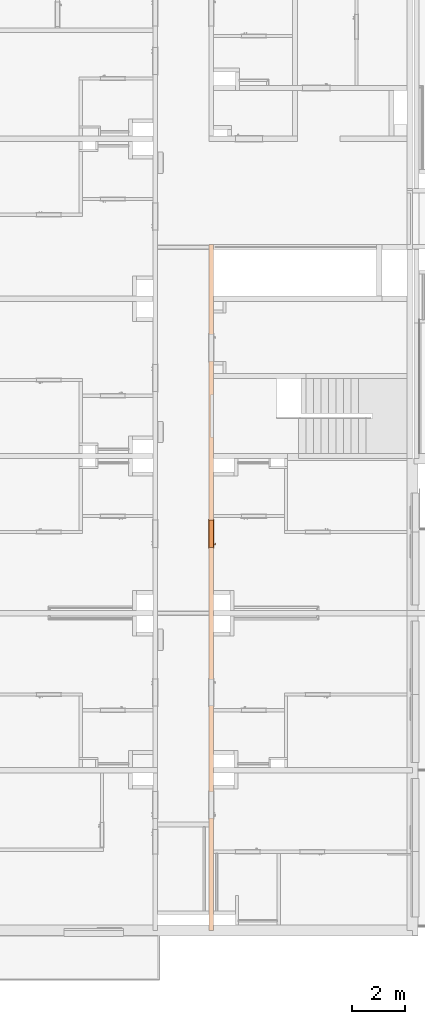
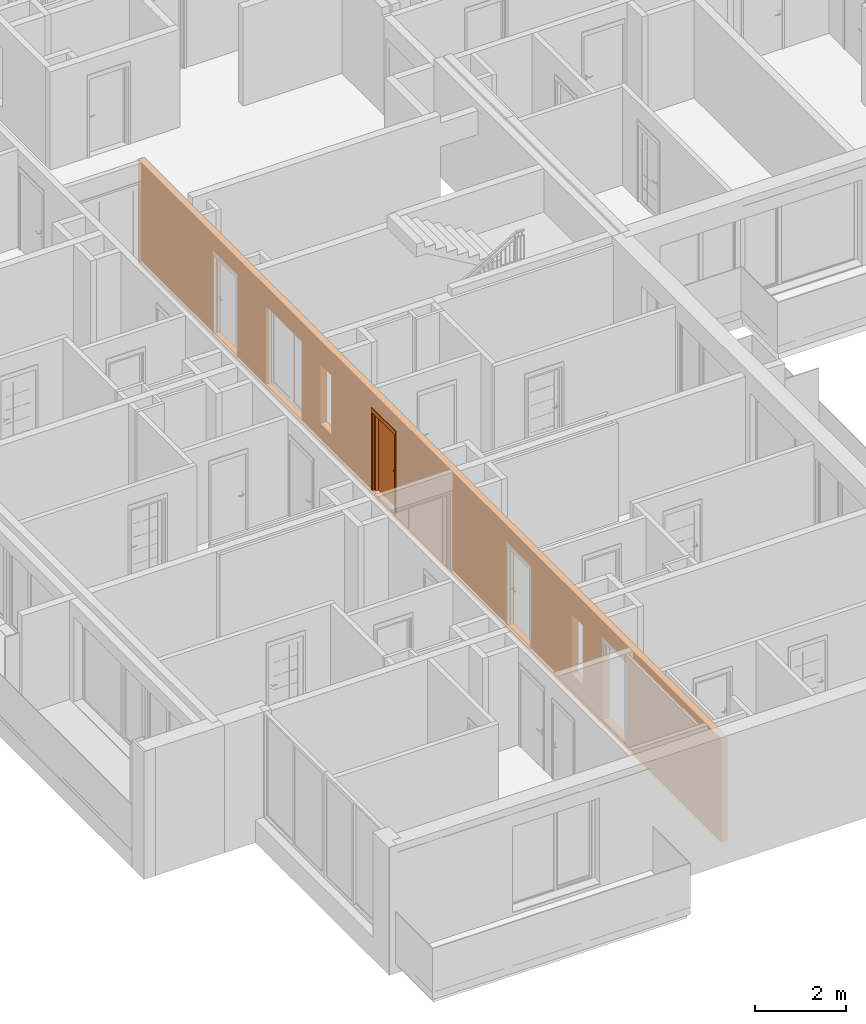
# One storey, part 14 of 67: 1 proxy, 7 openings, plus 1 element that does not belong to this part.
"""IFC2X3 building model written with IfcOpenShell, lengths in millimetres."""

from ifc_helpers import new_model, entity, si_unit, converted_unit, derived_unit, money_unit, direction, frame, origin_with_axes, origin_2d_with_axis, place, context, subcontext, project, spatial, rectangle, extrude, open_shell, faceted_brep, surface_model, source, transform, mapped, material, type_object, element, fill, save


model = new_model("IFC2X3")

# Units and contexts
model_context = context("Model", 3, precision=0.01, world=origin_with_axes(), true_north=direction((0.34421633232, 0.938890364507)))
body_context = subcontext(model_context, "Body", "Model", "MODEL_VIEW")
ifc_project = project(units=[si_unit("LENGTHUNIT", "METRE", prefix="MILLI"), si_unit("AREAUNIT", "SQUARE_METRE"), si_unit("VOLUMEUNIT", "CUBIC_METRE"), converted_unit("PLANEANGLEUNIT", "DEGREE", entity("IfcPlaneAngleMeasure", 0.0174532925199), si_unit("PLANEANGLEUNIT", "RADIAN"), dimensions=[0, 0, 0, 0, 0, 0, 0]), si_unit("SOLIDANGLEUNIT", "STERADIAN"), money_unit("USD"), converted_unit("TIMEUNIT", "Year", entity("IfcTimeMeasure", 31556926.0), si_unit("TIMEUNIT", "SECOND"), dimensions=[0, 0, 1, 0, 0, 0, 0]), si_unit("MASSUNIT", "GRAM", prefix="KILO"), si_unit("THERMODYNAMICTEMPERATUREUNIT", "DEGREE_CELSIUS"), si_unit("LUMINOUSINTENSITYUNIT", "LUMEN"), si_unit("ENERGYUNIT", "JOULE", prefix="MEGA"), derived_unit("THERMALCONDUCTANCEUNIT", [(si_unit("POWERUNIT", "WATT"), 1), (si_unit("LENGTHUNIT", "METRE"), -1), (si_unit("THERMODYNAMICTEMPERATUREUNIT", "KELVIN"), -1)]), derived_unit("SPECIFICHEATCAPACITYUNIT", [(si_unit("ENERGYUNIT", "JOULE"), 1), (si_unit("MASSUNIT", "GRAM", prefix="KILO"), -1), (si_unit("THERMODYNAMICTEMPERATUREUNIT", "KELVIN"), -1)]), derived_unit("MASSDENSITYUNIT", [(si_unit("MASSUNIT", "GRAM", prefix="KILO"), 1), (si_unit("VOLUMEUNIT", "CUBIC_METRE"), -1)])], contexts=[model_context])

# Site, building, storey
site_placement = place(None, origin_with_axes())
site = spatial("IfcSite", under=ifc_project, at=site_placement, Name="USTRONIE MORSKIE", CompositionType="ELEMENT")
building_placement = place(site_placement, origin_with_axes())
building = spatial("IfcBuilding", under=site, at=building_placement, Name="Budynek", CompositionType="ELEMENT")
storey_placement = place(building_placement, frame((0.0, 0.0, 4000.0), z_axis=(0.0, 0.0, 1.0), x_axis=(1.0, 0.0, 0.0)))
storey = spatial("IfcBuildingStorey", under=building, at=storey_placement, Name="PIĘTRO 1", CompositionType="ELEMENT", Elevation=4000.0)

# Proxies, openings
ifc_material = material(Name="Beton konstrukcyjny B25")
building_element_proxy_type_1 = type_object("IfcBuildingElementProxyType", Name="Beton konstrukcyjny B25 160", PredefinedType="NOTDEFINED")
proxy_1_placement = place(storey_placement, frame((359617.920919, 734831.198985, -160.0), z_axis=(0.0, 0.0, 1.0), x_axis=(0.0, -1.0, 0.0)))
proxy_1 = element("IfcBuildingElementProxy", 1, at=proxy_1_placement, inside=storey, type_object=building_element_proxy_type_1, material=ifc_material, Name="SW-01", context=body_context, shape_type="Brep", body=[
    faceted_brep([(0.0, 80.0, 0.0), (25729.9999491, 80.0, 0.0), (25729.9999491, -80.0, 0.0), (0.0, -80.0, 0.0), (0.0, 80.0, 2800.0), (25729.9999491, 80.0, 2800.0), (25729.9999491, -80.0, 2800.0), (0.0, -80.0, 2800.0)], [[[0, 1, 2, 3]], [[4, 5, 1, 0]], [[6, 2, 1, 5]], [[3, 2, 6, 7]], [[7, 4, 0, 3]], [[7, 6, 5, 4]]]),
])
opening_1_placement = place(proxy_1_placement, frame((16809.9552113, 0.0, 160.0), z_axis=(0.0, 0.0, 1.0), x_axis=(1.0, 0.0, 0.0)))
element("IfcOpeningElement", 2, at=opening_1_placement, cuts=proxy_1, Name="Dw.1", context=body_context, shape_type="SweptSolid", body=[
    extrude(rectangle(XDim=1020.0, YDim=2120.0, at=origin_2d_with_axis()), frame((0.0, -160.0, 1060.0), z_axis=(0.0, 1.0, 0.0), x_axis=(1.0, 0.0, 0.0)), (0.0, 0.0, 1.0), 480.0),
    extrude(rectangle(XDim=1094.0, YDim=2227.0, at=origin_2d_with_axis()), frame((0.0, -80.0, 1113.5), z_axis=(0.0, 1.0, 0.0), x_axis=(1.0, 0.0, 0.0)), (0.0, 0.0, -1.0), 160.0),
    extrude(rectangle(XDim=1094.0, YDim=2227.0, at=origin_2d_with_axis()), frame((0.0, 80.0, 1113.5), z_axis=(0.0, -1.0, 0.0), x_axis=(1.0, 0.0, 0.0)), (0.0, 0.0, -1.0), 160.0),
])
opening_2_placement = place(proxy_1_placement, frame((21029.9999495, 0.0, 160.0), z_axis=(0.0, 0.0, 1.0), x_axis=(1.0, 0.0, 0.0)))
element("IfcOpeningElement", 3, at=opening_2_placement, cuts=proxy_1, Name="Dw.1", context=body_context, shape_type="SweptSolid", body=[
    extrude(rectangle(XDim=1020.0, YDim=2120.0, at=origin_2d_with_axis()), frame((0.0, -160.0, 1060.0), z_axis=(0.0, -1.0, 0.0), x_axis=(-1.0, 0.0, 0.0)), (0.0, 0.0, -1.0), 480.0),
    extrude(rectangle(XDim=1094.0, YDim=2227.0, at=origin_2d_with_axis()), frame((0.0, -80.0, 1113.5), z_axis=(0.0, -1.0, 0.0), x_axis=(-1.0, 0.0, 0.0)), (0.0, 0.0, 1.0), 160.0),
    extrude(rectangle(XDim=1094.0, YDim=2227.0, at=origin_2d_with_axis()), frame((0.0, 80.0, 1113.5), z_axis=(0.0, 1.0, 0.0), x_axis=(-1.0, 0.0, 0.0)), (0.0, 0.0, 1.0), 160.0),
])
opening_3_placement = place(proxy_1_placement, frame((3869.9999533, 0.0, 160.0), z_axis=(0.0, 0.0, 1.0), x_axis=(1.0, 0.0, 0.0)))
element("IfcOpeningElement", 4, at=opening_3_placement, cuts=proxy_1, Name="Dw.2", context=body_context, shape_type="SweptSolid", body=[
    extrude(rectangle(XDim=1020.0, YDim=2120.0, at=origin_2d_with_axis()), frame((0.0, -160.0, 1060.0), z_axis=(0.0, 1.0, 0.0), x_axis=(1.0, 0.0, 0.0)), (0.0, 0.0, 1.0), 480.0),
    extrude(rectangle(XDim=1094.0, YDim=2227.0, at=origin_2d_with_axis()), frame((0.0, -80.0, 1113.5), z_axis=(0.0, 1.0, 0.0), x_axis=(1.0, 0.0, 0.0)), (0.0, 0.0, -1.0), 160.0),
    extrude(rectangle(XDim=1094.0, YDim=2227.0, at=origin_2d_with_axis()), frame((0.0, 80.0, 1113.5), z_axis=(0.0, -1.0, 0.0), x_axis=(1.0, 0.0, 0.0)), (0.0, 0.0, -1.0), 160.0),
])
opening_4_placement = place(proxy_1_placement, frame((6429.99994909, 0.0, 160.0), z_axis=(0.0, 0.0, 1.0), x_axis=(1.0, 0.0, 0.0)))
element("IfcOpeningElement", 5, at=opening_4_placement, cuts=proxy_1, Name="D2", context=body_context, shape_type="SweptSolid", body=[
    extrude(rectangle(XDim=1620.0, YDim=2120.0, at=origin_2d_with_axis()), frame((0.0, -160.0, 1060.0), z_axis=(0.0, -1.0, 0.0), x_axis=(-1.0, 0.0, 0.0)), (0.0, 0.0, -1.0), 480.0),
])
opening_5_placement = place(proxy_1_placement, frame((10850.0446869, 0.0, 160.0), z_axis=(0.0, 0.0, 1.0), x_axis=(1.0, 0.0, 0.0)))
opening_5 = element("IfcOpeningElement", 6, at=opening_5_placement, cuts=proxy_1, Name="Dw.1", context=body_context, shape_type="SweptSolid", body=[
    extrude(rectangle(XDim=1020.0, YDim=2120.0, at=origin_2d_with_axis()), frame((0.0, -160.0, 1060.0), z_axis=(0.0, -1.0, 0.0), x_axis=(-1.0, 0.0, 0.0)), (0.0, 0.0, -1.0), 480.0),
    extrude(rectangle(XDim=1094.0, YDim=2227.0, at=origin_2d_with_axis()), frame((0.0, -80.0, 1113.5), z_axis=(0.0, -1.0, 0.0), x_axis=(-1.0, 0.0, 0.0)), (0.0, 0.0, 1.0), 160.0),
    extrude(rectangle(XDim=1094.0, YDim=2227.0, at=origin_2d_with_axis()), frame((0.0, 80.0, 1113.5), z_axis=(0.0, 1.0, 0.0), x_axis=(-1.0, 0.0, 0.0)), (0.0, 0.0, 1.0), 160.0),
])
opening_6_placement = place(proxy_1_placement, frame((8280.00085724, 0.0, 560.0), z_axis=(0.0, 0.0, 1.0), x_axis=(1.0, 0.0, 0.0)))
element("IfcOpeningElement", 7, at=opening_6_placement, cuts=proxy_1, Name="R.01", context=body_context, shape_type="SweptSolid", body=[
    extrude(rectangle(XDim=500.001816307, YDim=1600.0, at=origin_2d_with_axis()), frame((0.0, -80.0, 800.0), z_axis=(0.0, 1.0, 0.0), x_axis=(1.0, 0.0, 0.0)), (0.0, 0.0, -1.0), 160.0),
    extrude(rectangle(XDim=500.001816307, YDim=1600.0, at=origin_2d_with_axis()), frame((0.0, -80.0, 800.0), z_axis=(0.0, -1.0, 0.0), x_axis=(1.0, 0.0, 0.0)), (0.0, 0.0, -1.0), 160.0),
])
opening_7_placement = place(proxy_1_placement, frame((19380.0004126, 0.0, 560.0), z_axis=(0.0, 0.0, 1.0), x_axis=(1.0, 0.0, 0.0)))
element("IfcOpeningElement", 8, at=opening_7_placement, cuts=proxy_1, Name="R.01", context=body_context, shape_type="SweptSolid", body=[
    extrude(rectangle(XDim=500.001816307, YDim=1600.0, at=origin_2d_with_axis()), frame((0.0, -80.0, 800.0), z_axis=(0.0, 1.0, 0.0), x_axis=(1.0, 0.0, 0.0)), (0.0, 0.0, -1.0), 160.0),
    extrude(rectangle(XDim=500.001816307, YDim=1600.0, at=origin_2d_with_axis()), frame((0.0, -80.0, 800.0), z_axis=(0.0, -1.0, 0.0), x_axis=(1.0, 0.0, 0.0)), (0.0, 0.0, -1.0), 160.0),
])
building_element_proxy_type_2 = type_object("IfcBuildingElementProxyType", Name="Drzwi 23", PredefinedType="NOTDEFINED")
shared_shape = source(origin_with_axes(), body_context, "Body", "SurfaceModel", [
    faceted_brep([(510.0, -115.0, 0.0), (510.0, -160.0, 0.0), (485.0, -160.0, 0.0), (485.0, -115.0, 0.0), (510.0, -115.0, 2120.0), (510.0, -160.0, 2120.0), (485.0, -160.0, 2095.0), (485.0, -115.0, 2095.0)], [[[0, 1, 2, 3]], [[4, 5, 1, 0]], [[1, 5, 6, 2]], [[3, 2, 6, 7]], [[0, 3, 7, 4]], [[7, 6, 5, 4]]]),
    faceted_brep([(-510.0, -115.0, 2120.0), (-510.0, -160.0, 2120.0), (-485.0, -160.0, 2095.0), (-485.0, -115.0, 2095.0), (-510.0, -115.0, 0.0), (-510.0, -160.0, 0.0), (-485.0, -160.0, 0.0), (-485.0, -115.0, 0.0)], [[[0, 1, 2, 3]], [[4, 5, 1, 0]], [[1, 5, 6, 2]], [[3, 2, 6, 7]], [[0, 3, 7, 4]], [[7, 6, 5, 4]]]),
    faceted_brep([(485.0, -115.0, 2095.0), (485.0, -160.0, 2095.0), (-485.0, -160.0, 2095.0), (-485.0, -115.0, 2095.0), (510.0, -115.0, 2120.0), (510.0, -160.0, 2120.0), (-510.0, -160.0, 2120.0), (-510.0, -115.0, 2120.0)], [[[0, 1, 2, 3]], [[4, 5, 1, 0]], [[1, 5, 6, 2]], [[3, 2, 6, 7]], [[0, 3, 7, 4]], [[7, 6, 5, 4]]]),
    faceted_brep([(547.0, -179.0, 0.0), (497.0, -179.0, 0.0), (497.0, -160.0, 0.0), (547.0, -160.0, 0.0), (547.0, -179.0, 2227.0), (497.0, -179.0, 2107.0), (497.0, -160.0, 2107.0), (547.0, -160.0, 2227.0)], [[[0, 1, 2, 3]], [[0, 4, 5, 1]], [[1, 5, 6, 2]], [[3, 2, 6, 7]], [[4, 0, 3, 7]], [[5, 4, 7, 6]]]),
    faceted_brep([(-547.0, -179.0, 2227.0), (-497.0, -179.0, 2107.0), (-497.0, -160.0, 2107.0), (-547.0, -160.0, 2227.0), (-547.0, -179.0, 0.0), (-497.0, -179.0, 0.0), (-497.0, -160.0, 0.0), (-547.0, -160.0, 0.0)], [[[0, 1, 2, 3]], [[0, 4, 5, 1]], [[1, 5, 6, 2]], [[3, 2, 6, 7]], [[4, 0, 3, 7]], [[5, 4, 7, 6]]]),
    faceted_brep([(547.0, -179.0, 2227.0), (497.0, -179.0, 2107.0), (497.0, -160.0, 2107.0), (547.0, -160.0, 2227.0), (-547.0, -179.0, 2227.0), (-497.0, -179.0, 2107.0), (-497.0, -160.0, 2107.0), (-547.0, -160.0, 2227.0)], [[[0, 1, 2, 3]], [[0, 4, 5, 1]], [[1, 5, 6, 2]], [[3, 2, 6, 7]], [[4, 0, 3, 7]], [[5, 4, 7, 6]]]),
    faceted_brep([(547.0, 19.0, 0.0), (547.0, 0.0, 0.0), (497.0, 0.0, 0.0), (497.0, 19.0, 0.0), (547.0, 19.0, 2227.0), (547.0, 0.0, 2227.0), (497.0, 0.0, 2107.0), (497.0, 19.0, 2107.0)], [[[0, 1, 2, 3]], [[4, 5, 1, 0]], [[1, 5, 6, 2]], [[3, 2, 6, 7]], [[0, 3, 7, 4]], [[7, 6, 5, 4]]]),
    faceted_brep([(-547.0, 19.0, 2227.0), (-547.0, 0.0, 2227.0), (-497.0, 0.0, 2107.0), (-497.0, 19.0, 2107.0), (-547.0, 19.0, 0.0), (-547.0, 0.0, 0.0), (-497.0, 0.0, 0.0), (-497.0, 19.0, 0.0)], [[[0, 1, 2, 3]], [[4, 5, 1, 0]], [[1, 5, 6, 2]], [[3, 2, 6, 7]], [[0, 3, 7, 4]], [[7, 6, 5, 4]]]),
    faceted_brep([(547.0, 19.0, 2227.0), (547.0, 0.0, 2227.0), (497.0, 0.0, 2107.0), (497.0, 19.0, 2107.0), (-547.0, 19.0, 2227.0), (-547.0, 0.0, 2227.0), (-497.0, 0.0, 2107.0), (-497.0, 19.0, 2107.0)], [[[0, 1, 2, 3]], [[4, 5, 1, 0]], [[1, 5, 6, 2]], [[3, 2, 6, 7]], [[0, 3, 7, 4]], [[7, 6, 5, 4]]]),
    faceted_brep([(450.0, -40.0, 0.0), (450.0, -115.0, 0.0), (450.0, -115.0, 2050.0), (450.0, -40.0, 2050.0), (462.0, -40.0, 0.0), (462.0, 0.0, 0.0), (510.0, 0.0, 0.0), (510.0, -115.0, 0.0), (510.0, -115.0, 2050.0), (462.0, -40.0, 2050.0), (510.0, 0.0, 2050.0), (462.0, 0.0, 2050.0)], [[[0, 1, 2, 3]], [[4, 5, 6, 7, 1, 0]], [[1, 7, 8, 2]], [[9, 3, 2, 8, 10, 11]], [[9, 4, 0, 3]], [[11, 5, 4, 9]], [[11, 10, 6, 5]], [[6, 10, 8, 7]]]),
    faceted_brep([(-462.0, -40.0, 2050.0), (-462.0, 0.0, 2050.0), (-510.0, 0.0, 2050.0), (-510.0, -115.0, 2050.0), (-450.0, -115.0, 2050.0), (-450.0, -40.0, 2050.0), (-462.0, -40.0, 0.0), (-462.0, 0.0, 0.0), (-510.0, 0.0, 0.0), (-510.0, -115.0, 0.0), (-450.0, -115.0, 0.0), (-450.0, -40.0, 0.0)], [[[0, 1, 2, 3, 4, 5]], [[0, 6, 7, 1]], [[7, 8, 2, 1]], [[2, 8, 9, 3]], [[3, 9, 10, 4]], [[5, 4, 10, 11]], [[5, 11, 6, 0]], [[6, 11, 10, 9, 8, 7]]]),
    faceted_brep([(462.0, 0.0, 2062.0), (-462.0, 0.0, 2062.0), (-462.0, 0.0, 2050.0), (-510.0, 0.0, 2050.0), (-510.0, 0.0, 2120.0), (510.0, 0.0, 2120.0), (510.0, 0.0, 2050.0), (462.0, 0.0, 2050.0), (462.0, -40.0, 2062.0), (-462.0, -40.0, 2062.0), (-462.0, -40.0, 2050.0), (-450.0, -40.0, 2050.0), (-450.0, -115.0, 2050.0), (-510.0, -115.0, 2050.0), (-510.0, -115.0, 2120.0), (510.0, -115.0, 2120.0), (510.0, -115.0, 2050.0), (462.0, -40.0, 2050.0), (450.0, -115.0, 2050.0), (450.0, -40.0, 2050.0)], [[[0, 1, 2, 3, 4, 5, 6, 7]], [[0, 8, 9, 1]], [[1, 9, 10, 2]], [[10, 11, 12, 13, 3, 2]], [[4, 3, 13, 14]], [[5, 4, 14, 15]], [[6, 5, 15, 16]], [[17, 7, 6, 16, 18, 19]], [[7, 17, 8, 0]], [[10, 9, 8, 17, 19, 11]], [[19, 18, 12, 11]], [[12, 18, 16, 15, 14, 13]]]),
    faceted_brep([(440.5, -40.0, 1060.0), (383.5, -40.0, 1060.0), (383.5, -43.0, 1060.0), (440.5, -43.0, 1060.0), (440.5, -40.0, 870.0), (383.5, -40.0, 870.0), (383.5, -43.0, 870.0), (440.5, -43.0, 870.0)], [[[0, 1, 2, 3]], [[0, 4, 5, 1]], [[1, 5, 6, 2]], [[3, 2, 6, 7]], [[4, 0, 3, 7]], [[5, 4, 7, 6]]]),
    faceted_brep([(412.0, -104.0, 990.0), (417.0, -104.0, 991.339745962), (417.0, -111.0, 991.339745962), (412.0, -111.0, 990.0), (387.0, -104.0, 990.0), (387.0, -104.0, 1010.0), (412.0, -104.0, 1010.0), (417.0, -104.0, 1008.66025404), (420.660254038, -104.0, 1005.0), (422.0, -104.0, 1000.0), (420.660254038, -104.0, 995.0), (420.660254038, -111.0, 995.0), (422.0, -111.0, 1000.0), (420.660254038, -111.0, 1005.0), (417.0, -111.0, 1008.66025404), (412.0, -111.0, 1010.0), (387.0, -111.0, 1010.0), (387.0, -111.0, 990.0)], [[[0, 1, 2, 3]], [[0, 4, 5, 6, 7, 8, 9, 10, 1]], [[1, 10, 11, 2]], [[3, 2, 11, 12, 13, 14, 15, 16, 17]], [[4, 0, 3, 17]], [[5, 4, 17, 16]], [[6, 5, 16, 15]], [[7, 6, 15, 14]], [[8, 7, 14, 13]], [[9, 8, 13, 12]], [[10, 9, 12, 11]]]),
    surface_model("IfcShellBasedSurfaceModel", [(387.0, -104.0, 1010.0), (373.901717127, -104.0, 1009.60730092), (373.596090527, -111.0, 1009.60730092), (387.0, -104.0, 990.0), (373.901717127, -104.0, 990.392699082), (346.890283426, -108.663544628, 1008.82190275), (387.0, -111.0, 1010.0), (387.0, -111.0, 990.0), (347.804837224, -101.716818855, 991.178097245), (347.804837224, -101.716818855, 1008.82190275), (346.890283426, -108.663544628, 991.178097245), (373.596090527, -111.0, 990.392699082), (322.006256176, -97.1678329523, 991.963495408), (322.006256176, -97.1678329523, 1008.03650459), (320.489735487, -104.008415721, 1008.03650459), (320.489735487, -104.008415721, 991.963495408), (296.702316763, -90.3876628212, 992.748893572), (296.702316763, -90.3876628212, 1007.25110643), (294.59537082, -97.0700416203, 1007.25110643), (294.59537082, -97.0700416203, 992.748893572), (288.829442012, -87.5221707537, 993.0), (288.829442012, -87.5221707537, 1007.0), (286.538795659, -94.1376880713, 1007.0), (286.538795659, -94.1376880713, 993.0)], [open_shell([[[0, 1, 2]], [[0, 3, 4, 1]], [[1, 5, 2]], [[0, 2, 6]], [[4, 3, 7]], [[1, 4, 8, 9]], [[1, 9, 5]], [[2, 5, 10, 11]], [[6, 2, 11, 7]], [[4, 7, 11]], [[8, 4, 11]], [[9, 8, 12, 13]], [[9, 14, 5]], [[5, 14, 15, 10]], [[8, 11, 10]], [[12, 8, 10]], [[13, 12, 16, 17]], [[9, 13, 14]], [[14, 18, 19, 15]], [[12, 10, 15]], [[16, 12, 15]], [[17, 16, 20, 21]], [[13, 17, 18]], [[13, 18, 14]], [[18, 22, 23, 19]], [[16, 15, 19]], [[20, 16, 19]], [[21, 20, 23, 22]], [[17, 21, 22]], [[17, 22, 18]], [[20, 19, 23]]])]),
    faceted_brep([(401.607695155, -53.0, 994.0), (400.0, -53.0, 1000.0), (399.0, -43.0, 1000.0), (400.741669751, -43.0, 993.5), (406.0, -53.0, 989.607695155), (412.0, -53.0, 988.0), (418.0, -53.0, 989.607695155), (422.392304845, -53.0, 994.0), (424.0, -53.0, 1000.0), (422.392304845, -53.0, 1006.0), (418.0, -53.0, 1010.39230485), (412.0, -53.0, 1012.0), (406.0, -53.0, 1010.39230485), (401.607695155, -53.0, 1006.0), (400.741669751, -43.0, 1006.5), (405.5, -43.0, 1011.25833025), (412.0, -43.0, 1013.0), (418.5, -43.0, 1011.25833025), (423.258330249, -43.0, 1006.5), (425.0, -43.0, 1000.0), (423.258330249, -43.0, 993.5), (418.5, -43.0, 988.741669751), (412.0, -43.0, 987.0), (405.5, -43.0, 988.741669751)], [[[0, 1, 2, 3]], [[1, 0, 4, 5, 6, 7, 8, 9, 10, 11, 12, 13]], [[1, 13, 14, 2]], [[2, 14, 15, 16, 17, 18, 19, 20, 21, 22, 23, 3]], [[4, 0, 3, 23]], [[5, 4, 23, 22]], [[6, 5, 22, 21]], [[7, 6, 21, 20]], [[8, 7, 20, 19]], [[9, 8, 19, 18]], [[10, 9, 18, 17]], [[11, 10, 17, 16]], [[12, 11, 16, 15]], [[13, 12, 15, 14]]]),
    faceted_brep([(394.679491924, -47.0, 895.0), (392.0, -47.0, 905.0), (390.0, -43.0, 905.0), (392.947441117, -43.0, 894.0), (402.0, -47.0, 887.679491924), (412.0, -47.0, 885.0), (422.0, -47.0, 887.679491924), (429.320508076, -47.0, 895.0), (432.0, -47.0, 905.0), (429.320508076, -47.0, 915.0), (422.0, -47.0, 922.320508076), (412.0, -47.0, 925.0), (402.0, -47.0, 922.320508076), (394.679491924, -47.0, 915.0), (392.947441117, -43.0, 916.0), (401.0, -43.0, 924.052558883), (412.0, -43.0, 927.0), (423.0, -43.0, 924.052558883), (431.052558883, -43.0, 916.0), (434.0, -43.0, 905.0), (431.052558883, -43.0, 894.0), (423.0, -43.0, 885.947441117), (412.0, -43.0, 883.0), (401.0, -43.0, 885.947441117)], [[[0, 1, 2, 3]], [[1, 0, 4, 5, 6, 7, 8, 9, 10, 11, 12, 13]], [[1, 13, 14, 2]], [[2, 14, 15, 16, 17, 18, 19, 20, 21, 22, 23, 3]], [[4, 0, 3, 23]], [[5, 4, 23, 22]], [[6, 5, 22, 21]], [[7, 6, 21, 20]], [[8, 7, 20, 19]], [[9, 8, 19, 18]], [[10, 9, 18, 17]], [[11, 10, 17, 16]], [[12, 11, 16, 15]], [[13, 12, 15, 14]]]),
    faceted_brep([(407.050252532, -49.0, 909.050252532), (405.0, -49.0, 914.0), (404.0, -47.0, 914.0), (406.343145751, -47.0, 908.343145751), (412.0, -49.0, 907.0), (416.949747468, -49.0, 909.050252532), (419.0, -49.0, 914.0), (416.949747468, -49.0, 918.949747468), (412.0, -49.0, 921.0), (407.050252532, -49.0, 918.949747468), (406.343145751, -47.0, 919.656854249), (412.0, -47.0, 922.0), (417.656854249, -47.0, 919.656854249), (420.0, -47.0, 914.0), (417.656854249, -47.0, 908.343145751), (412.0, -47.0, 906.0)], [[[0, 1, 2, 3]], [[1, 0, 4, 5, 6, 7, 8, 9]], [[1, 9, 10, 2]], [[2, 10, 11, 12, 13, 14, 15, 3]], [[4, 0, 3, 15]], [[5, 4, 15, 14]], [[6, 5, 14, 13]], [[7, 6, 13, 12]], [[8, 7, 12, 11]], [[9, 8, 11, 10]]]),
    faceted_brep([(412.0, -53.0, 1010.0), (407.0, -53.0, 1008.66025404), (407.0, -104.0, 1008.66025404), (412.0, -104.0, 1010.0), (417.0, -53.0, 1008.66025404), (420.660254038, -53.0, 1005.0), (422.0, -53.0, 1000.0), (420.660254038, -53.0, 995.0), (417.0, -53.0, 991.339745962), (412.0, -53.0, 990.0), (407.0, -53.0, 991.339745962), (403.339745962, -53.0, 995.0), (402.0, -53.0, 1000.0), (403.339745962, -53.0, 1005.0), (403.339745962, -104.0, 1005.0), (402.0, -104.0, 1000.0), (403.339745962, -104.0, 995.0), (407.0, -104.0, 991.339745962), (412.0, -104.0, 990.0), (417.0, -104.0, 991.339745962), (420.660254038, -104.0, 995.0), (422.0, -104.0, 1000.0), (420.660254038, -104.0, 1005.0), (417.0, -104.0, 1008.66025404)], [[[0, 1, 2, 3]], [[0, 4, 5, 6, 7, 8, 9, 10, 11, 12, 13, 1]], [[1, 13, 14, 2]], [[3, 2, 14, 15, 16, 17, 18, 19, 20, 21, 22, 23]], [[4, 0, 3, 23]], [[5, 4, 23, 22]], [[6, 5, 22, 21]], [[7, 6, 21, 20]], [[8, 7, 20, 19]], [[9, 8, 19, 18]], [[10, 9, 18, 17]], [[11, 10, 17, 16]], [[12, 11, 16, 15]], [[13, 12, 15, 14]]]),
    faceted_brep([(440.5, 0.0, 1060.0), (440.5, 3.0, 1060.0), (383.5, 3.0, 1060.0), (383.5, 0.0, 1060.0), (440.5, 0.0, 870.0), (440.5, 3.0, 870.0), (383.5, 3.0, 870.0), (383.5, 0.0, 870.0)], [[[0, 1, 2, 3]], [[4, 5, 1, 0]], [[1, 5, 6, 2]], [[3, 2, 6, 7]], [[0, 3, 7, 4]], [[7, 6, 5, 4]]]),
    faceted_brep([(412.0, 64.0, 990.0), (412.0, 71.0, 990.0), (417.0, 71.0, 991.339745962), (417.0, 64.0, 991.339745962), (387.0, 64.0, 990.0), (387.0, 71.0, 990.0), (387.0, 71.0, 1010.0), (412.0, 71.0, 1010.0), (417.0, 71.0, 1008.66025404), (420.660254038, 71.0, 1005.0), (422.0, 71.0, 1000.0), (420.660254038, 71.0, 995.0), (420.660254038, 64.0, 995.0), (422.0, 64.0, 1000.0), (420.660254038, 64.0, 1005.0), (417.0, 64.0, 1008.66025404), (412.0, 64.0, 1010.0), (387.0, 64.0, 1010.0)], [[[0, 1, 2, 3]], [[4, 5, 1, 0]], [[1, 5, 6, 7, 8, 9, 10, 11, 2]], [[3, 2, 11, 12]], [[0, 3, 12, 13, 14, 15, 16, 17, 4]], [[17, 6, 5, 4]], [[16, 7, 6, 17]], [[15, 8, 7, 16]], [[14, 9, 8, 15]], [[13, 10, 9, 14]], [[12, 11, 10, 13]]]),
    surface_model("IfcShellBasedSurfaceModel", [(387.0, 64.0, 1010.0), (373.596090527, 71.0, 1009.60730092), (373.901717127, 64.0, 1009.60730092), (387.0, 71.0, 1010.0), (346.890283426, 68.6635446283, 1008.82190275), (373.901717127, 64.0, 990.392699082), (387.0, 64.0, 990.0), (387.0, 71.0, 990.0), (373.596090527, 71.0, 990.392699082), (346.890283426, 68.6635446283, 991.178097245), (347.804837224, 61.716818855, 1008.82190275), (347.804837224, 61.716818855, 991.178097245), (320.489735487, 64.0084157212, 991.963495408), (320.489735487, 64.0084157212, 1008.03650459), (322.006256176, 57.1678329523, 1008.03650459), (322.006256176, 57.1678329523, 991.963495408), (294.59537082, 57.0700416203, 992.748893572), (294.59537082, 57.0700416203, 1007.25110643), (296.702316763, 50.3876628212, 1007.25110643), (296.702316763, 50.3876628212, 992.748893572), (286.538795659, 54.1376880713, 993.0), (286.538795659, 54.1376880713, 1007.0), (288.829442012, 47.5221707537, 1007.0), (288.829442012, 47.5221707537, 993.0)], [open_shell([[[0, 1, 2]], [[0, 3, 1]], [[2, 1, 4]], [[0, 2, 5, 6]], [[3, 7, 8, 1]], [[1, 8, 9, 4]], [[2, 4, 10]], [[2, 10, 11, 5]], [[5, 7, 6]], [[5, 8, 7]], [[11, 9, 8]], [[4, 9, 12, 13]], [[10, 4, 13]], [[10, 14, 15, 11]], [[11, 8, 5]], [[15, 9, 11]], [[15, 12, 9]], [[13, 12, 16, 17]], [[10, 13, 14]], [[14, 18, 19, 15]], [[19, 12, 15]], [[19, 16, 12]], [[17, 16, 20, 21]], [[14, 13, 17]], [[14, 17, 18]], [[18, 22, 23, 19]], [[23, 16, 19]], [[23, 20, 16]], [[22, 21, 20, 23]], [[18, 17, 21]], [[18, 21, 22]]])]),
    faceted_brep([(401.607695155, 13.0, 994.0), (400.741669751, 3.0, 993.5), (399.0, 3.0, 1000.0), (400.0, 13.0, 1000.0), (406.0, 13.0, 989.607695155), (405.5, 3.0, 988.741669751), (412.0, 3.0, 987.0), (418.5, 3.0, 988.741669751), (423.258330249, 3.0, 993.5), (425.0, 3.0, 1000.0), (423.258330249, 3.0, 1006.5), (418.5, 3.0, 1011.25833025), (412.0, 3.0, 1013.0), (405.5, 3.0, 1011.25833025), (400.741669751, 3.0, 1006.5), (401.607695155, 13.0, 1006.0), (406.0, 13.0, 1010.39230485), (412.0, 13.0, 1012.0), (418.0, 13.0, 1010.39230485), (422.392304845, 13.0, 1006.0), (424.0, 13.0, 1000.0), (422.392304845, 13.0, 994.0), (418.0, 13.0, 989.607695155), (412.0, 13.0, 988.0)], [[[0, 1, 2, 3]], [[4, 5, 1, 0]], [[2, 1, 5, 6, 7, 8, 9, 10, 11, 12, 13, 14]], [[3, 2, 14, 15]], [[3, 15, 16, 17, 18, 19, 20, 21, 22, 23, 4, 0]], [[23, 6, 5, 4]], [[22, 7, 6, 23]], [[21, 8, 7, 22]], [[20, 9, 8, 21]], [[19, 10, 9, 20]], [[18, 11, 10, 19]], [[17, 12, 11, 18]], [[16, 13, 12, 17]], [[15, 14, 13, 16]]]),
    faceted_brep([(394.679491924, 7.0, 895.0), (392.947441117, 3.0, 894.0), (390.0, 3.0, 905.0), (392.0, 7.0, 905.0), (402.0, 7.0, 887.679491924), (401.0, 3.0, 885.947441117), (412.0, 3.0, 883.0), (423.0, 3.0, 885.947441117), (431.052558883, 3.0, 894.0), (434.0, 3.0, 905.0), (431.052558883, 3.0, 916.0), (423.0, 3.0, 924.052558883), (412.0, 3.0, 927.0), (401.0, 3.0, 924.052558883), (392.947441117, 3.0, 916.0), (394.679491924, 7.0, 915.0), (402.0, 7.0, 922.320508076), (412.0, 7.0, 925.0), (422.0, 7.0, 922.320508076), (429.320508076, 7.0, 915.0), (432.0, 7.0, 905.0), (429.320508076, 7.0, 895.0), (422.0, 7.0, 887.679491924), (412.0, 7.0, 885.0)], [[[0, 1, 2, 3]], [[4, 5, 1, 0]], [[2, 1, 5, 6, 7, 8, 9, 10, 11, 12, 13, 14]], [[3, 2, 14, 15]], [[3, 15, 16, 17, 18, 19, 20, 21, 22, 23, 4, 0]], [[23, 6, 5, 4]], [[22, 7, 6, 23]], [[21, 8, 7, 22]], [[20, 9, 8, 21]], [[19, 10, 9, 20]], [[18, 11, 10, 19]], [[17, 12, 11, 18]], [[16, 13, 12, 17]], [[15, 14, 13, 16]]]),
    faceted_brep([(407.050252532, 9.0, 909.050252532), (406.343145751, 7.0, 908.343145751), (404.0, 7.0, 914.0), (405.0, 9.0, 914.0), (412.0, 9.0, 907.0), (412.0, 7.0, 906.0), (417.656854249, 7.0, 908.343145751), (420.0, 7.0, 914.0), (417.656854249, 7.0, 919.656854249), (412.0, 7.0, 922.0), (406.343145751, 7.0, 919.656854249), (407.050252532, 9.0, 918.949747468), (412.0, 9.0, 921.0), (416.949747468, 9.0, 918.949747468), (419.0, 9.0, 914.0), (416.949747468, 9.0, 909.050252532)], [[[0, 1, 2, 3]], [[4, 5, 1, 0]], [[2, 1, 5, 6, 7, 8, 9, 10]], [[3, 2, 10, 11]], [[3, 11, 12, 13, 14, 15, 4, 0]], [[15, 6, 5, 4]], [[14, 7, 6, 15]], [[13, 8, 7, 14]], [[12, 9, 8, 13]], [[11, 10, 9, 12]]]),
    faceted_brep([(412.0, 13.0, 1010.0), (412.0, 64.0, 1010.0), (407.0, 64.0, 1008.66025404), (407.0, 13.0, 1008.66025404), (417.0, 13.0, 1008.66025404), (417.0, 64.0, 1008.66025404), (420.660254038, 64.0, 1005.0), (422.0, 64.0, 1000.0), (420.660254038, 64.0, 995.0), (417.0, 64.0, 991.339745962), (412.0, 64.0, 990.0), (407.0, 64.0, 991.339745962), (403.339745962, 64.0, 995.0), (402.0, 64.0, 1000.0), (403.339745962, 64.0, 1005.0), (403.339745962, 13.0, 1005.0), (402.0, 13.0, 1000.0), (403.339745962, 13.0, 995.0), (407.0, 13.0, 991.339745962), (412.0, 13.0, 990.0), (417.0, 13.0, 991.339745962), (420.660254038, 13.0, 995.0), (422.0, 13.0, 1000.0), (420.660254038, 13.0, 1005.0)], [[[0, 1, 2, 3]], [[4, 5, 1, 0]], [[1, 5, 6, 7, 8, 9, 10, 11, 12, 13, 14, 2]], [[3, 2, 14, 15]], [[0, 3, 15, 16, 17, 18, 19, 20, 21, 22, 23, 4]], [[23, 6, 5, 4]], [[22, 7, 6, 23]], [[21, 8, 7, 22]], [[20, 9, 8, 21]], [[19, 10, 9, 20]], [[18, 11, 10, 19]], [[17, 12, 11, 18]], [[16, 13, 12, 17]], [[15, 14, 13, 16]]]),
    faceted_brep([(-462.0, 0.0, 0.0), (462.0, 0.0, 0.0), (462.0, -40.0, 0.0), (-462.0, -40.0, 0.0), (-462.0, 0.0, 2062.0), (462.0, 0.0, 2062.0), (462.0, -40.0, 2062.0), (-462.0, -40.0, 2062.0)], [[[0, 1, 2, 3]], [[0, 4, 5, 1]], [[1, 5, 6, 2]], [[3, 2, 6, 7]], [[4, 0, 3, 7]], [[5, 4, 7, 6]]]),
])
proxy_2_placement = place(opening_5_placement, frame((-450.0, 0.0, 0.0), z_axis=(0.0, 0.0, 1.0), x_axis=(1.0, 0.0, 0.0)))
proxy_2 = element("IfcBuildingElementProxy", 9, at=proxy_2_placement, inside=storey, type_object=building_element_proxy_type_2, Name="Dw.1", context=body_context, shape_type="MappedRepresentation", body=[
    mapped(shared_shape, transform((450.0, 80.0, 0.0))),
])
fill(opening_5, proxy_2)

save(model, "model.ifc")
